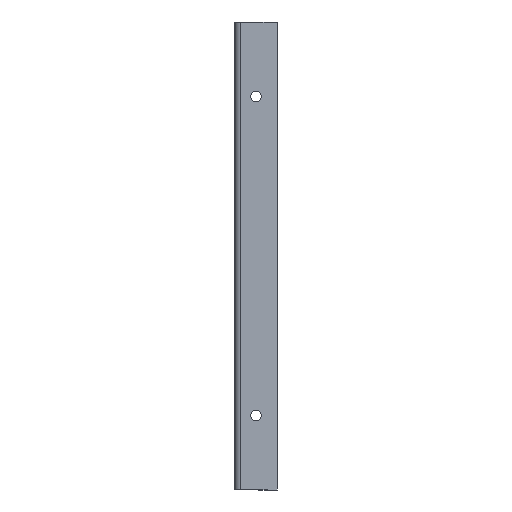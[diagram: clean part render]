
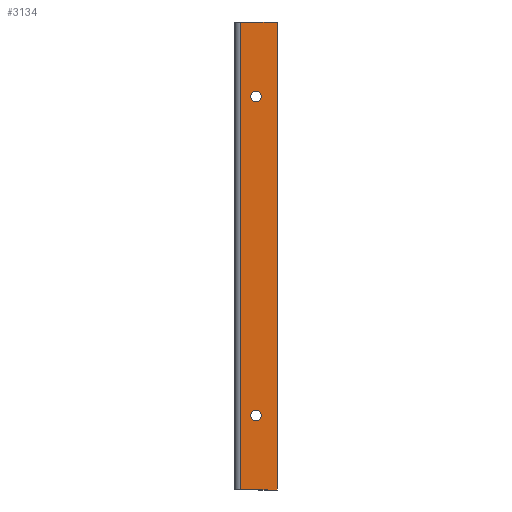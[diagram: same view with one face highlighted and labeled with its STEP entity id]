
A CAD part, front view. The second image highlights one B-rep face of the part: STEP entity #3134.
In plain terms, the highlighted planar face has unit normal (0, -1, 0).
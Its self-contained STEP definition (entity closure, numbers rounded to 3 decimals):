
#84 = AXIS2_PLACEMENT_3D ( 'NONE', #4395, #2338, #1669 ) ;
#104 = DIRECTION ( 'NONE',  ( -1., 0., 0. ) ) ;
#257 = LINE ( 'NONE', #3693, #3949 ) ;
#300 = ORIENTED_EDGE ( 'NONE', *, *, #1361, .F. ) ;
#378 = CARTESIAN_POINT ( 'NONE',  ( 110., -2., -87.5 ) ) ;
#406 = CARTESIAN_POINT ( 'NONE',  ( 120., -2., 100. ) ) ;
#410 = VECTOR ( 'NONE', #4374, 1000. ) ;
#448 = VECTOR ( 'NONE', #2181, 1000. ) ;
#458 = EDGE_LOOP ( 'NONE', ( #1892, #1562 ) ) ;
#548 = AXIS2_PLACEMENT_3D ( 'NONE', #561, #881, #1874 ) ;
#561 = CARTESIAN_POINT ( 'NONE',  ( 110., -2., -85. ) ) ;
#609 = AXIS2_PLACEMENT_3D ( 'NONE', #406, #3138, #104 ) ;
#774 = FACE_OUTER_BOUND ( 'NONE', #3575, .T. ) ;
#881 = DIRECTION ( 'NONE',  ( 0., -1., 0. ) ) ;
#909 = EDGE_CURVE ( 'NONE', #2930, #1688, #2024, .T. ) ;
#913 = VERTEX_POINT ( 'NONE', #1997 ) ;
#918 = AXIS2_PLACEMENT_3D ( 'NONE', #3127, #1077, #3457 ) ;
#934 = DIRECTION ( 'NONE',  ( 1., 0., 0. ) ) ;
#1060 = CARTESIAN_POINT ( 'NONE',  ( 102.736, -2., 100. ) ) ;
#1077 = DIRECTION ( 'NONE',  ( 0., -1., 0. ) ) ;
#1245 = DIRECTION ( 'NONE',  ( 0., 0., -1. ) ) ;
#1248 = ORIENTED_EDGE ( 'NONE', *, *, #3178, .F. ) ;
#1319 = LINE ( 'NONE', #4021, #410 ) ;
#1361 = EDGE_CURVE ( 'NONE', #2143, #1410, #2767, .T. ) ;
#1410 = VERTEX_POINT ( 'NONE', #378 ) ;
#1487 = CARTESIAN_POINT ( 'NONE',  ( 102.736, -2., -120. ) ) ;
#1517 = CARTESIAN_POINT ( 'NONE',  ( 120., -2., -120. ) ) ;
#1547 = VERTEX_POINT ( 'NONE', #1517 ) ;
#1562 = ORIENTED_EDGE ( 'NONE', *, *, #3658, .F. ) ;
#1585 = EDGE_CURVE ( 'NONE', #1410, #2143, #4271, .T. ) ;
#1610 = AXIS2_PLACEMENT_3D ( 'NONE', #3511, #3856, #1245 ) ;
#1669 = DIRECTION ( 'NONE',  ( 0., 0., -1. ) ) ;
#1688 = VERTEX_POINT ( 'NONE', #3951 ) ;
#1731 = FACE_BOUND ( 'NONE', #458, .T. ) ;
#1736 = EDGE_CURVE ( 'NONE', #2930, #3118, #257, .T. ) ;
#1754 = ORIENTED_EDGE ( 'NONE', *, *, #1736, .T. ) ;
#1874 = DIRECTION ( 'NONE',  ( 0., 0., -1. ) ) ;
#1892 = ORIENTED_EDGE ( 'NONE', *, *, #4291, .F. ) ;
#1980 = CIRCLE ( 'NONE', #84, 2.5 ) ;
#1997 = CARTESIAN_POINT ( 'NONE',  ( 110., -2., 67.5 ) ) ;
#2024 = LINE ( 'NONE', #3013, #4171 ) ;
#2143 = VERTEX_POINT ( 'NONE', #2587 ) ;
#2181 = DIRECTION ( 'NONE',  ( -1., 0., 0. ) ) ;
#2248 = EDGE_CURVE ( 'NONE', #1688, #1547, #1319, .T. ) ;
#2312 = DIRECTION ( 'NONE',  ( 0., 0., -1. ) ) ;
#2338 = DIRECTION ( 'NONE',  ( 0., -1., 0. ) ) ;
#2424 = ORIENTED_EDGE ( 'NONE', *, *, #1585, .F. ) ;
#2491 = PLANE ( 'NONE',  #609 ) ;
#2521 = CIRCLE ( 'NONE', #1610, 2.5 ) ;
#2587 = CARTESIAN_POINT ( 'NONE',  ( 110., -2., -82.5 ) ) ;
#2767 = CIRCLE ( 'NONE', #918, 2.5 ) ;
#2904 = EDGE_LOOP ( 'NONE', ( #300, #2424 ) ) ;
#2930 = VERTEX_POINT ( 'NONE', #1060 ) ;
#2955 = ORIENTED_EDGE ( 'NONE', *, *, #909, .F. ) ;
#3013 = CARTESIAN_POINT ( 'NONE',  ( 120., -2., 100. ) ) ;
#3118 = VERTEX_POINT ( 'NONE', #1487 ) ;
#3127 = CARTESIAN_POINT ( 'NONE',  ( 110., -2., -85. ) ) ;
#3134 = ADVANCED_FACE ( 'NONE', ( #3552, #1731, #774 ), #2491, .T. ) ;
#3138 = DIRECTION ( 'NONE',  ( 0., -1., 0. ) ) ;
#3176 = LINE ( 'NONE', #3243, #448 ) ;
#3178 = EDGE_CURVE ( 'NONE', #1547, #3118, #3176, .T. ) ;
#3243 = CARTESIAN_POINT ( 'NONE',  ( 120., -2., -120. ) ) ;
#3349 = VERTEX_POINT ( 'NONE', #4028 ) ;
#3457 = DIRECTION ( 'NONE',  ( 0., 0., -1. ) ) ;
#3511 = CARTESIAN_POINT ( 'NONE',  ( 110., -2., 65. ) ) ;
#3552 = FACE_BOUND ( 'NONE', #2904, .T. ) ;
#3575 = EDGE_LOOP ( 'NONE', ( #2955, #1754, #1248, #3837 ) ) ;
#3658 = EDGE_CURVE ( 'NONE', #3349, #913, #2521, .T. ) ;
#3693 = CARTESIAN_POINT ( 'NONE',  ( 102.736, -2., 100. ) ) ;
#3837 = ORIENTED_EDGE ( 'NONE', *, *, #2248, .F. ) ;
#3856 = DIRECTION ( 'NONE',  ( 0., -1., 0. ) ) ;
#3949 = VECTOR ( 'NONE', #2312, 1000. ) ;
#3951 = CARTESIAN_POINT ( 'NONE',  ( 120., -2., 100. ) ) ;
#4021 = CARTESIAN_POINT ( 'NONE',  ( 120., -2., 100. ) ) ;
#4028 = CARTESIAN_POINT ( 'NONE',  ( 110., -2., 62.5 ) ) ;
#4171 = VECTOR ( 'NONE', #934, 1000. ) ;
#4271 = CIRCLE ( 'NONE', #548, 2.5 ) ;
#4291 = EDGE_CURVE ( 'NONE', #913, #3349, #1980, .T. ) ;
#4374 = DIRECTION ( 'NONE',  ( 0., 0., -1. ) ) ;
#4395 = CARTESIAN_POINT ( 'NONE',  ( 110., -2., 65. ) ) ;
